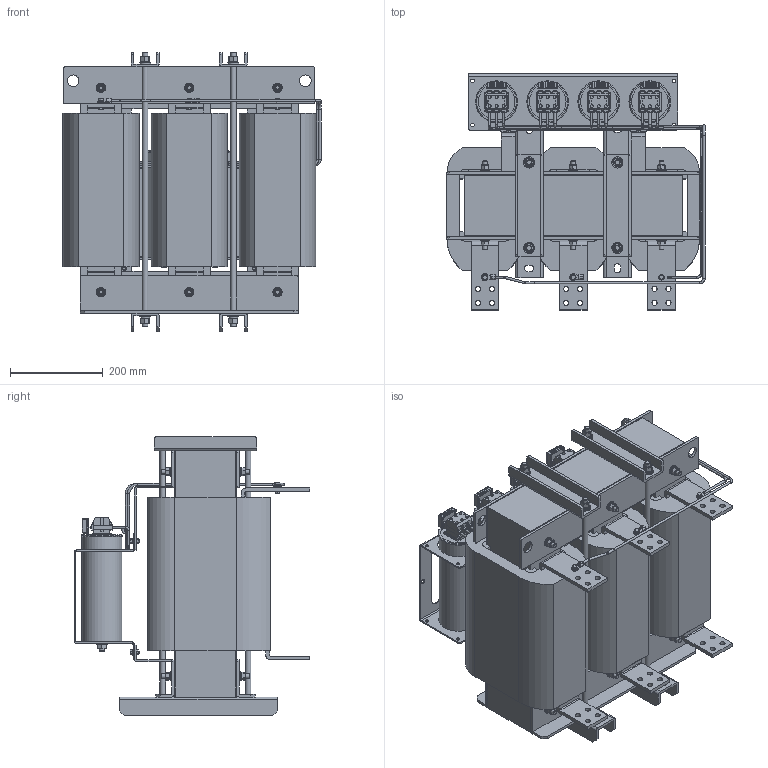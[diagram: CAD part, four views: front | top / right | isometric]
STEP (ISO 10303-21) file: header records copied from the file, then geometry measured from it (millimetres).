
FILE_DESCRIPTION (( 'STEP AP203' ), '1' );
FILE_NAME ('蔓躅漤铋 耔眢耥 翳朦蝠 _ ISINOF-315_605-4.STEP', '2026-07-21T06:18:30', ( '' ), ( '' ), 'SwSTEP 2.0', 'SolidWorks 2021', '' );
FILE_SCHEMA (( 'CONFIG_CONTROL_DESIGN' ));
Length unit declared in the file: millimetre
Products named in the file (1): 蔓躅漤铋 耔眢耥 翳朦蝠 _ ISINOF-315_605-4
Bounding box: 555.88 x 508 x 601 mm (x, y, z)
Surface area: 4989623.6 mm2 (no closed solid volume)
Topology: 0 solids, 189 shells, 2932 faces, 7603 edges, 5042 vertices
Faces by surface type: plane 1893, cylinder 817, cone 140, bspline 45, torus 37
Full cylindrical faces by diameter (mm): 5 x49, 5.053 x3, 6 x9, 6.3 x48, 6.45 x3, 6.5 x6, 7 x3, 7.47 x2, 8 x8, 8.422 x12, 9.55 x3, 10 x8, 10.106 x8, 10.75 x12, 10.833 x12, 11 x24, 12 x18, 12.9 x8, 13 x12, 15.917 x12, 19.1 x8, 20 x12, 24 x12, 25 x4, 78.861 x4, 86 x4, 89 x4, 90 x4
Entity records: 94366 total; most frequent: CARTESIAN_POINT 25309, ORIENTED_EDGE 14046, DIRECTION 13478, EDGE_CURVE 7031, VERTEX_POINT 4903, VECTOR 4640, LINE 4640, AXIS2_PLACEMENT_3D 4419
